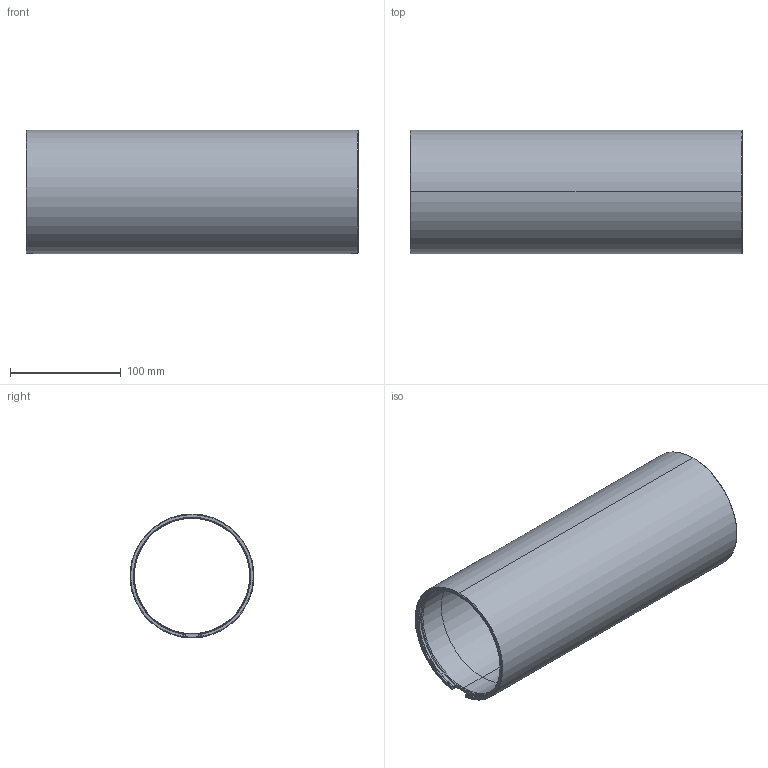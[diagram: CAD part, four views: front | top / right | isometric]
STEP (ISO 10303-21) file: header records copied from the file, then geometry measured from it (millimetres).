
FILE_DESCRIPTION (( 'STEP AP214' ), '1' );
FILE_NAME ('WTE4-M-LOCKING-TUBE-300-R2.STEP', '2022-02-01T07:27:26', ( '' ), ( '' ), 'SwSTEP 2.0', 'SolidWorks 2020', '' );
FILE_SCHEMA (( 'AUTOMOTIVE_DESIGN' ));
Length unit declared in the file: millimetre
Products named in the file (1): WTE4-M-LOCKING-TUBE-300-R2
Bounding box: 300 x 111.63 x 112 mm (x, y, z)
Volume: 394964.7 mm3; surface area: 205834.4 mm2
Topology: 1 solids, 1 shells, 70 faces, 180 edges, 110 vertices
Faces by surface type: cylinder 20, bspline 16, torus 12, plane 12, cone 10
Entity records: 4652 total; most frequent: CARTESIAN_POINT 3103, ORIENTED_EDGE 360, DIRECTION 258, EDGE_CURVE 180, AXIS2_PLACEMENT_3D 111, VERTEX_POINT 110, B_SPLINE_CURVE_WITH_KNOTS 84, FACE_OUTER_BOUND 70
